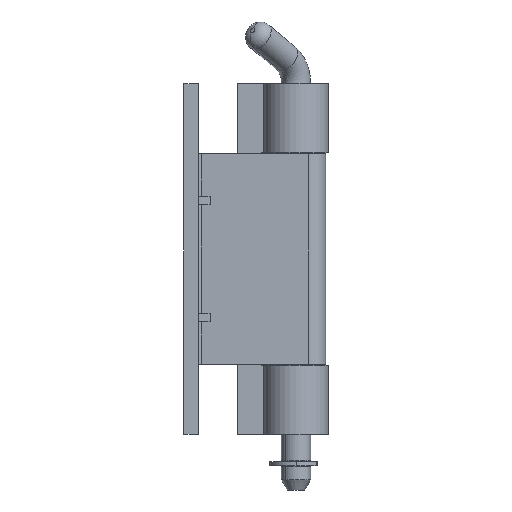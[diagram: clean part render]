
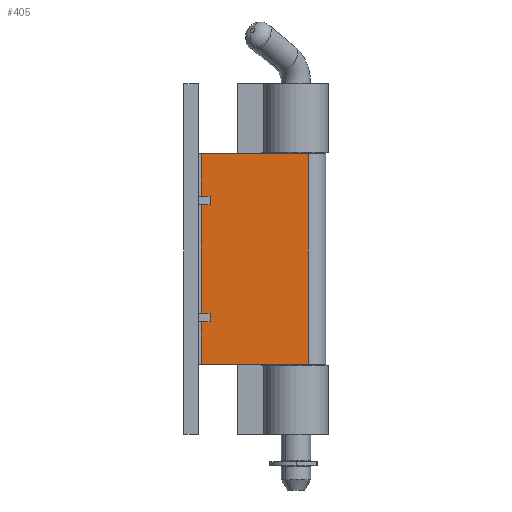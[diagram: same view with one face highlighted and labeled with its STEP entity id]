
A CAD part, left-side view. The second image highlights one B-rep face of the part: STEP entity #405.
In plain terms, the highlighted planar face has unit normal (-1, 0, 0).
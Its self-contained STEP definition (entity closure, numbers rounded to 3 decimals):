
#224 = EDGE_CURVE ( 'NONE', #259, #274, #1557, .T. ) ;
#225 = VERTEX_POINT ( 'NONE', #1508 ) ;
#252 = EDGE_LOOP ( 'NONE', ( #375, #402, #397, #345, #406, #360, #343, #358, #325, #335, #339, #349 ) ) ;
#259 = VERTEX_POINT ( 'NONE', #1580 ) ;
#271 = EDGE_CURVE ( 'NONE', #373, #296, #1613, .T. ) ;
#272 = VERTEX_POINT ( 'NONE', #1617 ) ;
#274 = VERTEX_POINT ( 'NONE', #1614 ) ;
#296 = VERTEX_POINT ( 'NONE', #1684 ) ;
#325 = ORIENTED_EDGE ( 'NONE', *, *, #391, .F. ) ;
#335 = ORIENTED_EDGE ( 'NONE', *, *, #392, .F. ) ;
#339 = ORIENTED_EDGE ( 'NONE', *, *, #393, .T. ) ;
#343 = ORIENTED_EDGE ( 'NONE', *, *, #400, .F. ) ;
#345 = ORIENTED_EDGE ( 'NONE', *, *, #394, .T. ) ;
#349 = ORIENTED_EDGE ( 'NONE', *, *, #224, .T. ) ;
#350 = VERTEX_POINT ( 'NONE', #1816 ) ;
#351 = VERTEX_POINT ( 'NONE', #1819 ) ;
#355 = VERTEX_POINT ( 'NONE', #1823 ) ;
#358 = ORIENTED_EDGE ( 'NONE', *, *, #384, .T. ) ;
#360 = ORIENTED_EDGE ( 'NONE', *, *, #396, .F. ) ;
#362 = VERTEX_POINT ( 'NONE', #1808 ) ;
#373 = VERTEX_POINT ( 'NONE', #1841 ) ;
#375 = ORIENTED_EDGE ( 'NONE', *, *, #404, .F. ) ;
#379 = VERTEX_POINT ( 'NONE', #1868 ) ;
#380 = VERTEX_POINT ( 'NONE', #1875 ) ;
#384 = EDGE_CURVE ( 'NONE', #351, #350, #1906, .T. ) ;
#391 = EDGE_CURVE ( 'NONE', #355, #350, #1904, .T. ) ;
#392 = EDGE_CURVE ( 'NONE', #362, #355, #1952, .T. ) ;
#393 = EDGE_CURVE ( 'NONE', #362, #259, #1947, .T. ) ;
#394 = EDGE_CURVE ( 'NONE', #296, #380, #1942, .T. ) ;
#395 = EDGE_CURVE ( 'NONE', #380, #225, #1938, .T. ) ;
#396 = EDGE_CURVE ( 'NONE', #272, #225, #1934, .T. ) ;
#397 = ORIENTED_EDGE ( 'NONE', *, *, #271, .T. ) ;
#400 = EDGE_CURVE ( 'NONE', #351, #272, #1985, .T. ) ;
#402 = ORIENTED_EDGE ( 'NONE', *, *, #403, .T. ) ;
#403 = EDGE_CURVE ( 'NONE', #379, #373, #1946, .T. ) ;
#404 = EDGE_CURVE ( 'NONE', #379, #274, #1971, .T. ) ;
#405 = ADVANCED_FACE ( 'NONE', ( #1980 ), #1987, .F. ) ;
#406 = ORIENTED_EDGE ( 'NONE', *, *, #395, .T. ) ;
#1508 = CARTESIAN_POINT ( 'NONE',  ( 12.5, -21.25, 0. ) ) ;
#1554 = DIRECTION ( 'NONE',  ( 0., 0., -1. ) ) ;
#1555 = VECTOR ( 'NONE', #1554, 1000. ) ;
#1556 = CARTESIAN_POINT ( 'NONE',  ( 12.5, -3., 36. ) ) ;
#1557 = LINE ( 'NONE', #1556, #1555 ) ;
#1580 = CARTESIAN_POINT ( 'NONE',  ( 12.5, -3., 27.25 ) ) ;
#1610 = DIRECTION ( 'NONE',  ( 0., 1., 0. ) ) ;
#1611 = VECTOR ( 'NONE', #1610, 1000. ) ;
#1612 = CARTESIAN_POINT ( 'NONE',  ( 12.5, -3., 7.25 ) ) ;
#1613 = LINE ( 'NONE', #1612, #1611 ) ;
#1614 = CARTESIAN_POINT ( 'NONE',  ( 12.5, -3., 8.75 ) ) ;
#1617 = CARTESIAN_POINT ( 'NONE',  ( 12.5, -21.25, 36. ) ) ;
#1684 = CARTESIAN_POINT ( 'NONE',  ( 12.5, -3., 7.25 ) ) ;
#1808 = CARTESIAN_POINT ( 'NONE',  ( 12.5, -4.5, 27.25 ) ) ;
#1816 = CARTESIAN_POINT ( 'NONE',  ( 12.5, -3., 28.75 ) ) ;
#1819 = CARTESIAN_POINT ( 'NONE',  ( 12.5, -3., 36. ) ) ;
#1823 = CARTESIAN_POINT ( 'NONE',  ( 12.5, -4.5, 28.75 ) ) ;
#1841 = CARTESIAN_POINT ( 'NONE',  ( 12.5, -4.5, 7.25 ) ) ;
#1868 = CARTESIAN_POINT ( 'NONE',  ( 12.5, -4.5, 8.75 ) ) ;
#1875 = CARTESIAN_POINT ( 'NONE',  ( 12.5, -3., 0. ) ) ;
#1889 = DIRECTION ( 'NONE',  ( 0., 1., 0. ) ) ;
#1890 = VECTOR ( 'NONE', #1889, 1000. ) ;
#1898 = DIRECTION ( 'NONE',  ( 0., 0., -1. ) ) ;
#1899 = VECTOR ( 'NONE', #1898, 1000. ) ;
#1900 = CARTESIAN_POINT ( 'NONE',  ( 12.5, -3., 36. ) ) ;
#1903 = CARTESIAN_POINT ( 'NONE',  ( 12.5, -3., 28.75 ) ) ;
#1904 = LINE ( 'NONE', #1903, #1890 ) ;
#1906 = LINE ( 'NONE', #1900, #1899 ) ;
#1931 = DIRECTION ( 'NONE',  ( 0., 0., -1. ) ) ;
#1932 = VECTOR ( 'NONE', #1931, 1000. ) ;
#1933 = CARTESIAN_POINT ( 'NONE',  ( 12.5, -21.25, 36. ) ) ;
#1934 = LINE ( 'NONE', #1933, #1932 ) ;
#1935 = DIRECTION ( 'NONE',  ( 0., -1., 0. ) ) ;
#1936 = VECTOR ( 'NONE', #1935, 1000. ) ;
#1937 = CARTESIAN_POINT ( 'NONE',  ( 12.5, 0., 0. ) ) ;
#1938 = LINE ( 'NONE', #1937, #1936 ) ;
#1939 = DIRECTION ( 'NONE',  ( 0., 0., -1. ) ) ;
#1940 = VECTOR ( 'NONE', #1939, 1000. ) ;
#1941 = CARTESIAN_POINT ( 'NONE',  ( 12.5, -3., 36. ) ) ;
#1942 = LINE ( 'NONE', #1941, #1940 ) ;
#1943 = DIRECTION ( 'NONE',  ( 0., 1., 0. ) ) ;
#1944 = VECTOR ( 'NONE', #1943, 1000. ) ;
#1945 = CARTESIAN_POINT ( 'NONE',  ( 12.5, -3., 27.25 ) ) ;
#1946 = LINE ( 'NONE', #1974, #1973 ) ;
#1947 = LINE ( 'NONE', #1945, #1944 ) ;
#1949 = DIRECTION ( 'NONE',  ( 0., 0., 1. ) ) ;
#1950 = VECTOR ( 'NONE', #1949, 1000. ) ;
#1951 = CARTESIAN_POINT ( 'NONE',  ( 12.5, -4.5, 27.25 ) ) ;
#1952 = LINE ( 'NONE', #1951, #1950 ) ;
#1964 = DIRECTION ( 'NONE',  ( 0., 1., 0. ) ) ;
#1965 = DIRECTION ( 'NONE',  ( 1., 0., 0. ) ) ;
#1966 = CARTESIAN_POINT ( 'NONE',  ( 12.5, 0., 36. ) ) ;
#1968 = DIRECTION ( 'NONE',  ( 0., 1., 0. ) ) ;
#1969 = VECTOR ( 'NONE', #1968, 1000. ) ;
#1970 = CARTESIAN_POINT ( 'NONE',  ( 12.5, -3., 8.75 ) ) ;
#1971 = LINE ( 'NONE', #1970, #1969 ) ;
#1972 = DIRECTION ( 'NONE',  ( 0., 0., -1. ) ) ;
#1973 = VECTOR ( 'NONE', #1972, 1000. ) ;
#1974 = CARTESIAN_POINT ( 'NONE',  ( 12.5, -4.5, 8.75 ) ) ;
#1975 = AXIS2_PLACEMENT_3D ( 'NONE', #1966, #1965, #1964 ) ;
#1980 = FACE_OUTER_BOUND ( 'NONE', #252, .T. ) ;
#1982 = DIRECTION ( 'NONE',  ( 0., -1., 0. ) ) ;
#1983 = VECTOR ( 'NONE', #1982, 1000. ) ;
#1984 = CARTESIAN_POINT ( 'NONE',  ( 12.5, 0., 36. ) ) ;
#1985 = LINE ( 'NONE', #1984, #1983 ) ;
#1987 = PLANE ( 'NONE',  #1975 ) ;
